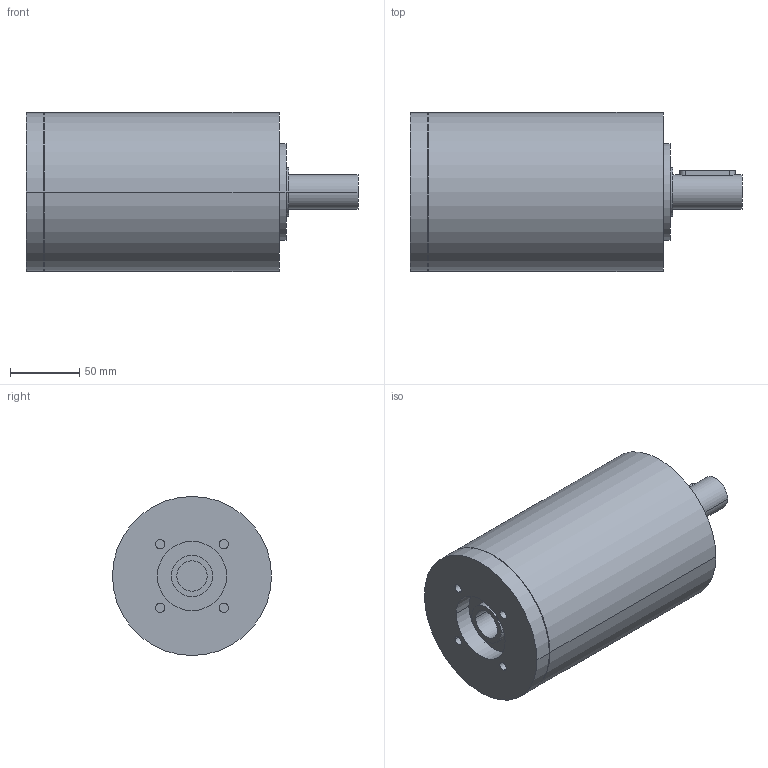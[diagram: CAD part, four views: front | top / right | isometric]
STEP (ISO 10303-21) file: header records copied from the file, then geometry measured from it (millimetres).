
FILE_DESCRIPTION(('CoCreate Modeling STEP Export'),'2;1');
FILE_NAME('GPR125_ig-9-12-16-20-28-35_25_B14_22_P10.stp','2014-08-26T14:11:01',(''),(''),'CoCreate Modeling STEP processor for AP214 (Solid Model)','CoCreate Modeling 16.00C 25-Feb-2009 (C) Parametric Technology GmbH','');
FILE_SCHEMA(('AUTOMOTIVE_DESIGN { 1 0 10303 214 1 1 1 1 }'));
Length unit declared in the file: millimetre
Products named in the file (2): GPR125_ig-9-12-16-20-28-35_25_B14_22_P10
Assembly tree (1 placements, depth 2):
  GPR125_ig-9-12-16-20-28-35_25_B14_22_P10
    GPR125_ig-9-12-16-20-28-35_25_B14_22_P10
Bounding box: 240 x 115 x 115 mm (x, y, z)
Volume: 1897332.1 mm3; surface area: 103633.8 mm2
Topology: 1 solids, 1 shells, 72 faces, 184 edges, 132 vertices
Faces by surface type: cylinder 44, plane 24, cone 4
Entity records: 1855 total; most frequent: ORIENTED_EDGE 364, CARTESIAN_POINT 346, DIRECTION 238, EDGE_CURVE 182, VERTEX_POINT 132, AXIS2_PLACEMENT_3D 92, EDGE_LOOP 92, FACE_OUTER_BOUND 72
